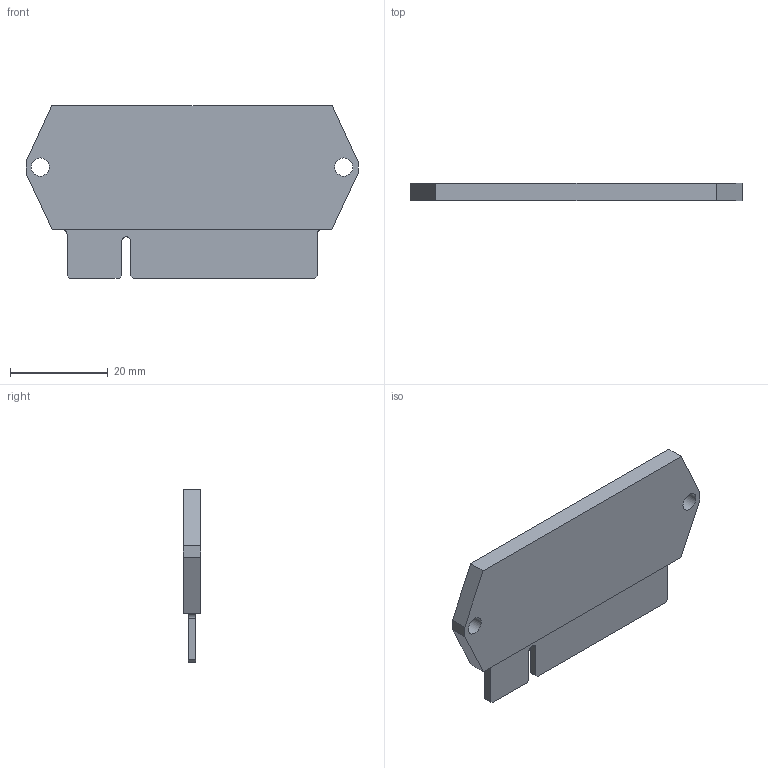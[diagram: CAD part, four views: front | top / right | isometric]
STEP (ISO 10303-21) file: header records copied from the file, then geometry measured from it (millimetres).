
FILE_DESCRIPTION((''),'1');
FILE_NAME('C:/Users/mulloa/Desktop/Lexium Motion Module.stp', '2018-12-10T14:29:17',(''), (''), 'KCM Version 1.1.2648.0', 'KeyCreator', '');
FILE_SCHEMA(('AUTOMOTIVE_DESIGN'));
Length unit declared in the file: inch
Bounding box: 68.07 x 3.56 x 35.43 mm (x, y, z)
Volume: 6417.4 mm3; surface area: 4907.5 mm2
Topology: 1 solids, 1 shells, 27 faces, 72 edges, 48 vertices
Faces by surface type: plane 22, cylinder 5
Full cylindrical faces by diameter (mm): 3.734 x2
Entity records: 885 total; most frequent: CARTESIAN_POINT 148, ORIENTED_EDGE 144, DIRECTION 138, EDGE_CURVE 72, VECTOR 62, LINE 62, VERTEX_POINT 48, AXIS2_PLACEMENT_3D 38
